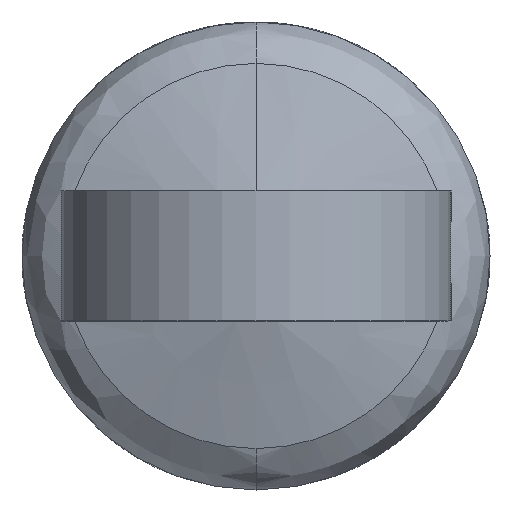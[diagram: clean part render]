
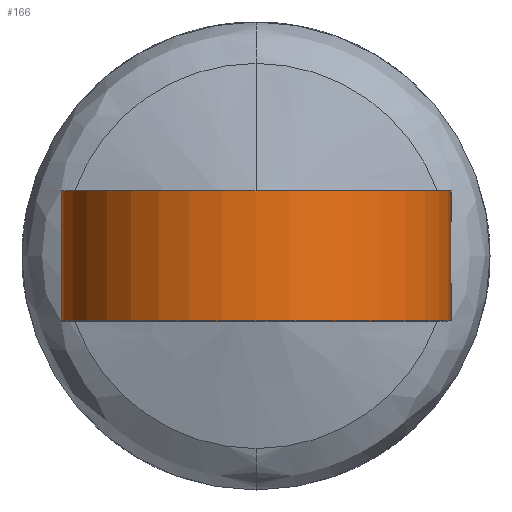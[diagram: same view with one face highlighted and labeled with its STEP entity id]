
A CAD part, front view. The second image highlights one B-rep face of the part: STEP entity #166.
In plain terms, the highlighted cylindrical face has radius 7.5 mm (diameter 15 mm), a partial arc.
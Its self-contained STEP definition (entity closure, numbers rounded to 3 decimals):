
#62 = VERTEX_POINT ( 'NONE', #2489 ) ;
#106 = ORIENTED_EDGE ( 'NONE', *, *, #692, .F. ) ;
#166 = ADVANCED_FACE ( 'NONE', ( #3670 ), #4073, .T. ) ;
#180 = DIRECTION ( 'NONE',  ( -1., 0., 0. ) ) ;
#264 = CARTESIAN_POINT ( 'NONE',  ( 7.5, -20.484, 2.5 ) ) ;
#324 = ORIENTED_EDGE ( 'NONE', *, *, #2897, .T. ) ;
#328 = DIRECTION ( 'NONE',  ( 0., 0., -1. ) ) ;
#554 = ORIENTED_EDGE ( 'NONE', *, *, #3012, .T. ) ;
#581 = CARTESIAN_POINT ( 'NONE',  ( -7.5, -20.484, -2.5 ) ) ;
#692 = EDGE_CURVE ( 'NONE', #62, #4229, #1946, .T. ) ;
#746 = AXIS2_PLACEMENT_3D ( 'NONE', #4624, #3519, #4301 ) ;
#1259 = DIRECTION ( 'NONE',  ( 0., 0., 1. ) ) ;
#1547 = VERTEX_POINT ( 'NONE', #581 ) ;
#1794 = AXIS2_PLACEMENT_3D ( 'NONE', #3781, #1900, #4523 ) ;
#1891 = VERTEX_POINT ( 'NONE', #3773 ) ;
#1895 = EDGE_LOOP ( 'NONE', ( #3821, #324, #106, #554 ) ) ;
#1900 = DIRECTION ( 'NONE',  ( 0., 0., 1. ) ) ;
#1946 = CIRCLE ( 'NONE', #3135, 7.5 ) ;
#1947 = CIRCLE ( 'NONE', #1794, 7.5 ) ;
#2086 = DIRECTION ( 'NONE',  ( 0., 0., 1. ) ) ;
#2489 = CARTESIAN_POINT ( 'NONE',  ( -7.5, -20.484, 2.5 ) ) ;
#2760 = CARTESIAN_POINT ( 'NONE',  ( 0., -20.484, 2.5 ) ) ;
#2897 = EDGE_CURVE ( 'NONE', #1891, #4229, #3095, .T. ) ;
#3012 = EDGE_CURVE ( 'NONE', #62, #1547, #3438, .T. ) ;
#3037 = VECTOR ( 'NONE', #2086, 1000. ) ;
#3095 = LINE ( 'NONE', #3161, #3037 ) ;
#3135 = AXIS2_PLACEMENT_3D ( 'NONE', #2760, #1259, #180 ) ;
#3161 = CARTESIAN_POINT ( 'NONE',  ( 7.5, -20.484, 35.787 ) ) ;
#3438 = LINE ( 'NONE', #4723, #3919 ) ;
#3519 = DIRECTION ( 'NONE',  ( 0., 0., -1. ) ) ;
#3641 = EDGE_CURVE ( 'NONE', #1547, #1891, #1947, .T. ) ;
#3670 = FACE_OUTER_BOUND ( 'NONE', #1895, .T. ) ;
#3773 = CARTESIAN_POINT ( 'NONE',  ( 7.5, -20.484, -2.5 ) ) ;
#3781 = CARTESIAN_POINT ( 'NONE',  ( 0., -20.484, -2.5 ) ) ;
#3821 = ORIENTED_EDGE ( 'NONE', *, *, #3641, .T. ) ;
#3919 = VECTOR ( 'NONE', #328, 1000. ) ;
#4073 = CYLINDRICAL_SURFACE ( 'NONE', #746, 7.5 ) ;
#4229 = VERTEX_POINT ( 'NONE', #264 ) ;
#4301 = DIRECTION ( 'NONE',  ( -1., 0., 0. ) ) ;
#4523 = DIRECTION ( 'NONE',  ( -1., 0., 0. ) ) ;
#4624 = CARTESIAN_POINT ( 'NONE',  ( 0., -20.484, 35.787 ) ) ;
#4723 = CARTESIAN_POINT ( 'NONE',  ( -7.5, -20.484, 35.787 ) ) ;
